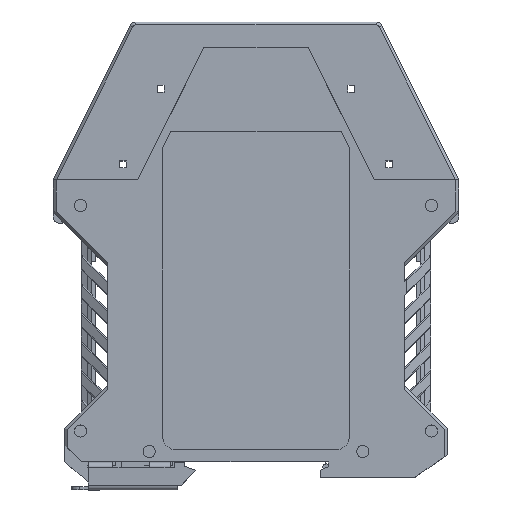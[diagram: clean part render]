
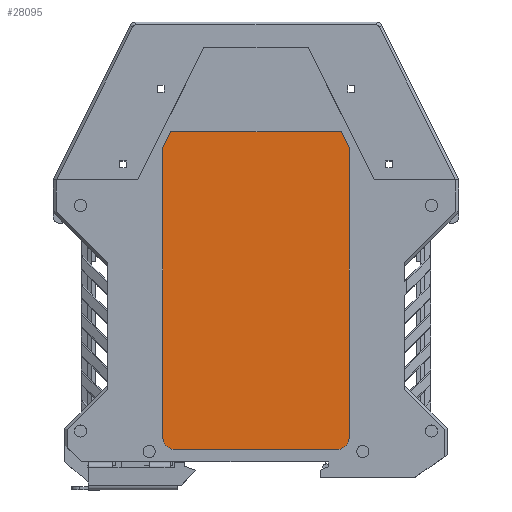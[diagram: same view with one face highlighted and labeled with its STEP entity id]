
A CAD part, top view. The second image highlights one B-rep face of the part: STEP entity #28095.
In plain terms, the highlighted planar face has unit normal (0, 0, 1) as drawn and (0, 1, 0) by its records, which use the part's own axes.
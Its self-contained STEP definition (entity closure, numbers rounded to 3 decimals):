
#17245=DIRECTION('',(-1.,0.,0.));
#17246=VECTOR('',#17245,39.5);
#17247=CARTESIAN_POINT('',(19.75,1.3,-65.9));
#17248=LINE('',#17247,#17246);
#17257=CARTESIAN_POINT('',(-19.75,1.3,-62.9));
#17258=DIRECTION('',(0.,-1.,0.));
#17259=DIRECTION('',(-1.,0.,0.));
#17260=AXIS2_PLACEMENT_3D('',#17257,#17258,#17259);
#17262=CARTESIAN_POINT('',(19.75,1.3,-62.9));
#17263=DIRECTION('',(0.,-1.,0.));
#17264=DIRECTION('',(0.,0.,-1.));
#17265=AXIS2_PLACEMENT_3D('',#17262,#17263,#17264);
#17267=DIRECTION('',(-0.448,0.,0.894));
#17268=VECTOR('',#17267,4.402);
#17269=CARTESIAN_POINT('',(22.75,1.3,7.814));
#17270=LINE('',#17269,#17268);
#17271=DIRECTION('',(-0.448,0.,-0.894));
#17272=VECTOR('',#17271,4.402);
#17273=CARTESIAN_POINT('',(-20.779,1.3,11.75));
#17274=LINE('',#17273,#17272);
#17283=DIRECTION('',(0.,0.,-1.));
#17284=VECTOR('',#17283,70.714);
#17285=CARTESIAN_POINT('',(22.75,1.3,7.814));
#17286=LINE('',#17285,#17284);
#17291=DIRECTION('',(1.,0.,0.));
#17292=VECTOR('',#17291,41.558);
#17293=CARTESIAN_POINT('',(-20.779,1.3,11.75));
#17294=LINE('',#17293,#17292);
#17303=DIRECTION('',(0.,0.,1.));
#17304=VECTOR('',#17303,70.714);
#17305=CARTESIAN_POINT('',(-22.75,1.3,-62.9));
#17306=LINE('',#17305,#17304);
#17475=CARTESIAN_POINT('',(-19.75,1.3,-65.9));
#17476=VERTEX_POINT('',#17475);
#17477=CARTESIAN_POINT('',(19.75,1.3,-65.9));
#17478=VERTEX_POINT('',#17477);
#17479=CARTESIAN_POINT('',(-22.75,1.3,-62.9));
#17480=VERTEX_POINT('',#17479);
#17481=CARTESIAN_POINT('',(22.75,1.3,-62.9));
#17482=VERTEX_POINT('',#17481);
#17483=CARTESIAN_POINT('',(22.75,1.3,7.814));
#17484=VERTEX_POINT('',#17483);
#17485=CARTESIAN_POINT('',(20.779,1.3,11.75));
#17486=VERTEX_POINT('',#17485);
#17487=CARTESIAN_POINT('',(-20.779,1.3,11.75));
#17488=VERTEX_POINT('',#17487);
#17489=CARTESIAN_POINT('',(-22.75,1.3,7.814));
#17490=VERTEX_POINT('',#17489);
#28074=CARTESIAN_POINT('',(0.,1.3,0.));
#28075=DIRECTION('',(0.,-1.,0.));
#28076=DIRECTION('',(1.,0.,0.));
#28077=AXIS2_PLACEMENT_3D('',#28074,#28075,#28076);
#28078=PLANE('',#28077);
#28079=ORIENTED_EDGE('',*,*,#28065,.T.);
#28080=ORIENTED_EDGE('',*,*,#28055,.F.);
#28082=ORIENTED_EDGE('',*,*,#28081,.T.);
#28084=ORIENTED_EDGE('',*,*,#28083,.F.);
#28086=ORIENTED_EDGE('',*,*,#28085,.T.);
#28088=ORIENTED_EDGE('',*,*,#28087,.F.);
#28090=ORIENTED_EDGE('',*,*,#28089,.T.);
#28092=ORIENTED_EDGE('',*,*,#28091,.F.);
#28093=EDGE_LOOP('',(#28079,#28080,#28082,#28084,#28086,#28088,#28090,#28092));
#28094=FACE_OUTER_BOUND('',#28093,.F.);
#28095=ADVANCED_FACE('',(#28094),#28078,.F.);
#17261=CIRCLE('',#17260,3.);
#17266=CIRCLE('',#17265,3.);
#28055=EDGE_CURVE('',#17478,#17476,#17248,.T.);
#28065=EDGE_CURVE('',#17480,#17476,#17261,.T.);
#28081=EDGE_CURVE('',#17478,#17482,#17266,.T.);
#28083=EDGE_CURVE('',#17484,#17482,#17286,.T.);
#28085=EDGE_CURVE('',#17484,#17486,#17270,.T.);
#28087=EDGE_CURVE('',#17488,#17486,#17294,.T.);
#28089=EDGE_CURVE('',#17488,#17490,#17274,.T.);
#28091=EDGE_CURVE('',#17480,#17490,#17306,.T.);
